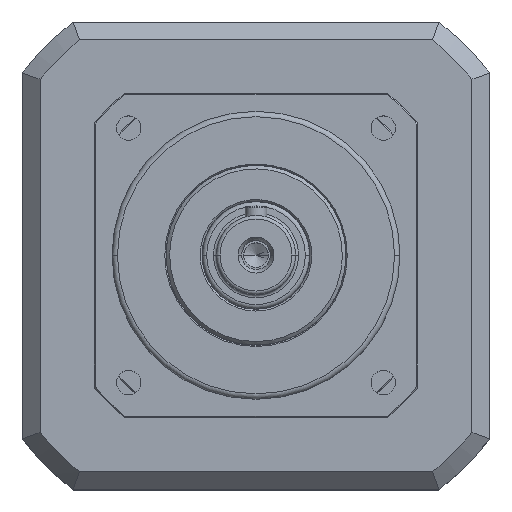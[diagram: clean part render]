
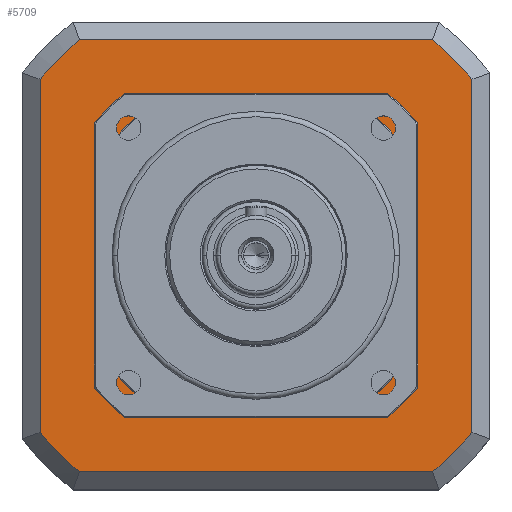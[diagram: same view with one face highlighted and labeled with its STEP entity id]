
A CAD part, top view. The second image highlights one B-rep face of the part: STEP entity #5709.
In plain terms, the highlighted planar face has unit normal (0, 0, 1).
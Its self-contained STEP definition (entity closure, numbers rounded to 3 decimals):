
#118 = ORIENTED_EDGE ( 'NONE', *, *, #14370, .T. ) ;
#138 = FACE_BOUND ( 'NONE', #9147, .T. ) ;
#259 = LINE ( 'NONE', #14092, #14230 ) ;
#855 = EDGE_CURVE ( 'NONE', #2508, #5127, #3305, .T. ) ;
#904 = CIRCLE ( 'NONE', #3413, 51. ) ;
#977 = EDGE_CURVE ( 'NONE', #18704, #11790, #13065, .T. ) ;
#981 = CIRCLE ( 'NONE', #4741, 51. ) ;
#1052 = ORIENTED_EDGE ( 'NONE', *, *, #9400, .T. ) ;
#1170 = CIRCLE ( 'NONE', #12112, 51. ) ;
#1250 = CARTESIAN_POINT ( 'NONE',  ( 45., -24., -90.5 ) ) ;
#1278 = EDGE_CURVE ( 'NONE', #12550, #9926, #12450, .T. ) ;
#1300 = DIRECTION ( 'NONE',  ( 0., 0., 1. ) ) ;
#1538 = DIRECTION ( 'NONE',  ( 1., 0., 0. ) ) ;
#1547 = VERTEX_POINT ( 'NONE', #14824 ) ;
#1646 = VECTOR ( 'NONE', #9252, 1000. ) ;
#1710 = CARTESIAN_POINT ( 'NONE',  ( 0., 60., -90.5 ) ) ;
#1796 = PLANE ( 'NONE',  #19328 ) ;
#1839 = DIRECTION ( 'NONE',  ( 0., 0., 1. ) ) ;
#1853 = DIRECTION ( 'NONE',  ( 0., 0., 1. ) ) ;
#2017 = ORIENTED_EDGE ( 'NONE', *, *, #2049, .T. ) ;
#2049 = EDGE_CURVE ( 'NONE', #15633, #6537, #259, .T. ) ;
#2070 = VERTEX_POINT ( 'NONE', #15186 ) ;
#2399 = EDGE_CURVE ( 'NONE', #9926, #16772, #14559, .T. ) ;
#2508 = VERTEX_POINT ( 'NONE', #3198 ) ;
#2643 = CARTESIAN_POINT ( 'NONE',  ( -60., -49.054, -90.5 ) ) ;
#2883 = CARTESIAN_POINT ( 'NONE',  ( 60., 49.054, -90.5 ) ) ;
#2942 = DIRECTION ( 'NONE',  ( 0., 0., 1. ) ) ;
#2955 = LINE ( 'NONE', #6152, #10386 ) ;
#2981 = CARTESIAN_POINT ( 'NONE',  ( 0., 0., -90.5 ) ) ;
#3042 = DIRECTION ( 'NONE',  ( 1., 0., 0. ) ) ;
#3197 = DIRECTION ( 'NONE',  ( 0., 0., 1. ) ) ;
#3198 = CARTESIAN_POINT ( 'NONE',  ( 24., 45., -90.5 ) ) ;
#3293 = VECTOR ( 'NONE', #8959, 1000. ) ;
#3305 = LINE ( 'NONE', #7984, #1646 ) ;
#3413 = AXIS2_PLACEMENT_3D ( 'NONE', #9280, #1853, #5096 ) ;
#3424 = CARTESIAN_POINT ( 'NONE',  ( -49.054, 60., -90.5 ) ) ;
#3484 = ORIENTED_EDGE ( 'NONE', *, *, #18622, .F. ) ;
#3640 = EDGE_CURVE ( 'NONE', #13603, #15204, #16443, .T. ) ;
#3659 = CIRCLE ( 'NONE', #11466, 51. ) ;
#3700 = AXIS2_PLACEMENT_3D ( 'NONE', #2981, #1300, #10833 ) ;
#4430 = CARTESIAN_POINT ( 'NONE',  ( 60., -49.054, -90.5 ) ) ;
#4567 = FACE_OUTER_BOUND ( 'NONE', #4642, .T. ) ;
#4642 = EDGE_LOOP ( 'NONE', ( #1052, #7851, #19079, #14169, #118, #16448, #14189, #2017 ) ) ;
#4741 = AXIS2_PLACEMENT_3D ( 'NONE', #16208, #14835, #7265 ) ;
#4842 = ORIENTED_EDGE ( 'NONE', *, *, #3640, .F. ) ;
#4910 = CARTESIAN_POINT ( 'NONE',  ( -24., 45., -90.5 ) ) ;
#4969 = DIRECTION ( 'NONE',  ( 1., 0., 0. ) ) ;
#5012 = CARTESIAN_POINT ( 'NONE',  ( 0., 0., -90.5 ) ) ;
#5064 = EDGE_CURVE ( 'NONE', #15204, #2070, #3659, .T. ) ;
#5096 = DIRECTION ( 'NONE',  ( 1., 0., 0. ) ) ;
#5127 = VERTEX_POINT ( 'NONE', #4910 ) ;
#5697 = CARTESIAN_POINT ( 'NONE',  ( 24., -45., -90.5 ) ) ;
#5709 = ADVANCED_FACE ( 'NONE', ( #4567, #138 ), #1796, .T. ) ;
#5768 = EDGE_CURVE ( 'NONE', #16772, #7585, #13761, .T. ) ;
#5777 = ORIENTED_EDGE ( 'NONE', *, *, #855, .F. ) ;
#5911 = ORIENTED_EDGE ( 'NONE', *, *, #5064, .F. ) ;
#5947 = CIRCLE ( 'NONE', #6127, 77.5 ) ;
#6120 = DIRECTION ( 'NONE',  ( -1., 0., 0. ) ) ;
#6127 = AXIS2_PLACEMENT_3D ( 'NONE', #9267, #1839, #18528 ) ;
#6152 = CARTESIAN_POINT ( 'NONE',  ( -24., -45., -90.5 ) ) ;
#6274 = CIRCLE ( 'NONE', #18189, 77.5 ) ;
#6537 = VERTEX_POINT ( 'NONE', #9469 ) ;
#6646 = CARTESIAN_POINT ( 'NONE',  ( -49.054, -60., -90.5 ) ) ;
#7085 = DIRECTION ( 'NONE',  ( 1., 0., 0. ) ) ;
#7265 = DIRECTION ( 'NONE',  ( 1., 0., 0. ) ) ;
#7585 = VERTEX_POINT ( 'NONE', #3424 ) ;
#7609 = EDGE_CURVE ( 'NONE', #11790, #15633, #12133, .T. ) ;
#7769 = DIRECTION ( 'NONE',  ( 1., 0., 0. ) ) ;
#7851 = ORIENTED_EDGE ( 'NONE', *, *, #1278, .T. ) ;
#7931 = LINE ( 'NONE', #13926, #8467 ) ;
#7984 = CARTESIAN_POINT ( 'NONE',  ( -24., 45., -90.5 ) ) ;
#8040 = ORIENTED_EDGE ( 'NONE', *, *, #15506, .F. ) ;
#8328 = DIRECTION ( 'NONE',  ( 0., 1., 0. ) ) ;
#8467 = VECTOR ( 'NONE', #14232, 1000. ) ;
#8546 = CARTESIAN_POINT ( 'NONE',  ( 0., 0., -90.5 ) ) ;
#8739 = DIRECTION ( 'NONE',  ( 0., 0., 1. ) ) ;
#8791 = CARTESIAN_POINT ( 'NONE',  ( 0., 0., -90.5 ) ) ;
#8954 = CARTESIAN_POINT ( 'NONE',  ( 0., 0., -90.5 ) ) ;
#8959 = DIRECTION ( 'NONE',  ( 0., -1., 0. ) ) ;
#9056 = DIRECTION ( 'NONE',  ( 0., 0., 1. ) ) ;
#9147 = EDGE_LOOP ( 'NONE', ( #4842, #19171, #5777, #17773, #8040, #18103, #3484, #5911 ) ) ;
#9252 = DIRECTION ( 'NONE',  ( -1., 0., 0. ) ) ;
#9267 = CARTESIAN_POINT ( 'NONE',  ( 0., 0., -90.5 ) ) ;
#9280 = CARTESIAN_POINT ( 'NONE',  ( 0., 0., -90.5 ) ) ;
#9400 = EDGE_CURVE ( 'NONE', #6537, #12550, #5947, .T. ) ;
#9469 = CARTESIAN_POINT ( 'NONE',  ( 49.054, -60., -90.5 ) ) ;
#9913 = CARTESIAN_POINT ( 'NONE',  ( -60., 0., -90.5 ) ) ;
#9926 = VERTEX_POINT ( 'NONE', #2883 ) ;
#10207 = DIRECTION ( 'NONE',  ( 0., -1., 0. ) ) ;
#10386 = VECTOR ( 'NONE', #3042, 1000. ) ;
#10718 = VECTOR ( 'NONE', #8328, 1000. ) ;
#10766 = DIRECTION ( 'NONE',  ( 1., 0., 0. ) ) ;
#10833 = DIRECTION ( 'NONE',  ( 1., 0., 0. ) ) ;
#11466 = AXIS2_PLACEMENT_3D ( 'NONE', #5012, #16884, #10766 ) ;
#11624 = DIRECTION ( 'NONE',  ( 1., 0., 0. ) ) ;
#11790 = VERTEX_POINT ( 'NONE', #2643 ) ;
#11875 = EDGE_CURVE ( 'NONE', #17618, #18077, #1170, .T. ) ;
#11914 = CARTESIAN_POINT ( 'NONE',  ( 0., 0., -90.5 ) ) ;
#12112 = AXIS2_PLACEMENT_3D ( 'NONE', #8791, #2942, #1538 ) ;
#12133 = CIRCLE ( 'NONE', #3700, 77.5 ) ;
#12450 = LINE ( 'NONE', #18456, #10718 ) ;
#12550 = VERTEX_POINT ( 'NONE', #4430 ) ;
#12715 = CARTESIAN_POINT ( 'NONE',  ( 49.054, 60., -90.5 ) ) ;
#13065 = LINE ( 'NONE', #9913, #16693 ) ;
#13603 = VERTEX_POINT ( 'NONE', #19244 ) ;
#13761 = LINE ( 'NONE', #1710, #15916 ) ;
#13926 = CARTESIAN_POINT ( 'NONE',  ( 45., 24., -90.5 ) ) ;
#14092 = CARTESIAN_POINT ( 'NONE',  ( 0., -60., -90.5 ) ) ;
#14169 = ORIENTED_EDGE ( 'NONE', *, *, #5768, .T. ) ;
#14189 = ORIENTED_EDGE ( 'NONE', *, *, #7609, .T. ) ;
#14230 = VECTOR ( 'NONE', #4969, 1000. ) ;
#14232 = DIRECTION ( 'NONE',  ( 0., 1., 0. ) ) ;
#14370 = EDGE_CURVE ( 'NONE', #7585, #18704, #6274, .T. ) ;
#14559 = CIRCLE ( 'NONE', #18940, 77.5 ) ;
#14786 = CARTESIAN_POINT ( 'NONE',  ( -45., 24., -90.5 ) ) ;
#14824 = CARTESIAN_POINT ( 'NONE',  ( 45., 24., -90.5 ) ) ;
#14835 = DIRECTION ( 'NONE',  ( 0., 0., 1. ) ) ;
#15186 = CARTESIAN_POINT ( 'NONE',  ( -24., -45., -90.5 ) ) ;
#15204 = VERTEX_POINT ( 'NONE', #18773 ) ;
#15506 = EDGE_CURVE ( 'NONE', #18077, #1547, #7931, .T. ) ;
#15633 = VERTEX_POINT ( 'NONE', #6646 ) ;
#15916 = VECTOR ( 'NONE', #6120, 1000. ) ;
#16150 = EDGE_CURVE ( 'NONE', #1547, #2508, #981, .T. ) ;
#16208 = CARTESIAN_POINT ( 'NONE',  ( 0., 0., -90.5 ) ) ;
#16443 = LINE ( 'NONE', #14786, #3293 ) ;
#16448 = ORIENTED_EDGE ( 'NONE', *, *, #977, .T. ) ;
#16693 = VECTOR ( 'NONE', #10207, 1000. ) ;
#16772 = VERTEX_POINT ( 'NONE', #12715 ) ;
#16884 = DIRECTION ( 'NONE',  ( 0., 0., 1. ) ) ;
#17618 = VERTEX_POINT ( 'NONE', #5697 ) ;
#17773 = ORIENTED_EDGE ( 'NONE', *, *, #16150, .F. ) ;
#18077 = VERTEX_POINT ( 'NONE', #1250 ) ;
#18103 = ORIENTED_EDGE ( 'NONE', *, *, #11875, .F. ) ;
#18189 = AXIS2_PLACEMENT_3D ( 'NONE', #8546, #8739, #7085 ) ;
#18456 = CARTESIAN_POINT ( 'NONE',  ( 60., 0., -90.5 ) ) ;
#18528 = DIRECTION ( 'NONE',  ( 1., 0., 0. ) ) ;
#18622 = EDGE_CURVE ( 'NONE', #2070, #17618, #2955, .T. ) ;
#18704 = VERTEX_POINT ( 'NONE', #18717 ) ;
#18717 = CARTESIAN_POINT ( 'NONE',  ( -60., 49.054, -90.5 ) ) ;
#18773 = CARTESIAN_POINT ( 'NONE',  ( -45., -24., -90.5 ) ) ;
#18940 = AXIS2_PLACEMENT_3D ( 'NONE', #11914, #9056, #11624 ) ;
#19079 = ORIENTED_EDGE ( 'NONE', *, *, #2399, .T. ) ;
#19171 = ORIENTED_EDGE ( 'NONE', *, *, #19323, .F. ) ;
#19244 = CARTESIAN_POINT ( 'NONE',  ( -45., 24., -90.5 ) ) ;
#19323 = EDGE_CURVE ( 'NONE', #5127, #13603, #904, .T. ) ;
#19328 = AXIS2_PLACEMENT_3D ( 'NONE', #8954, #3197, #7769 ) ;
